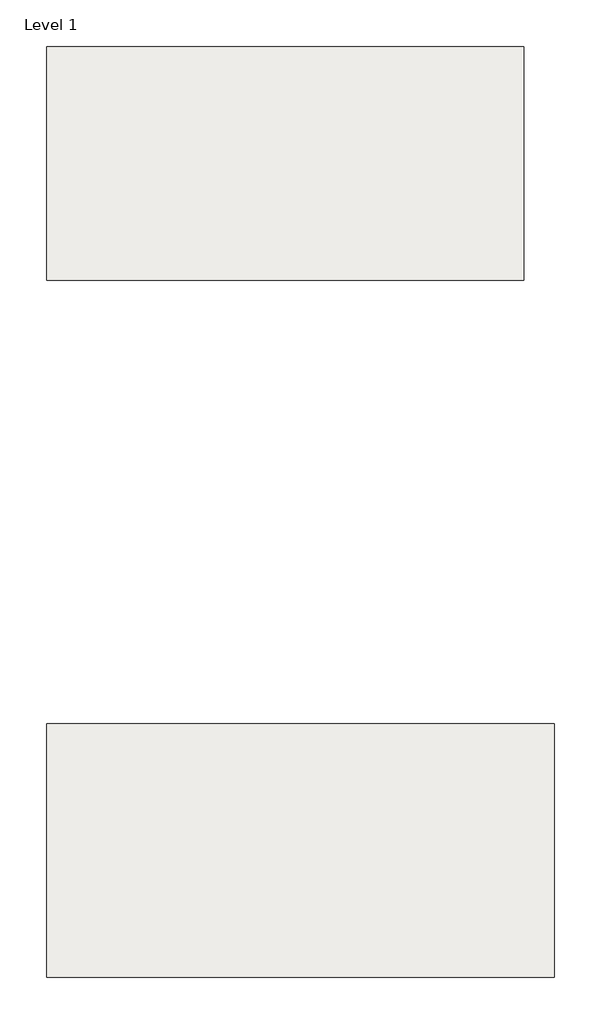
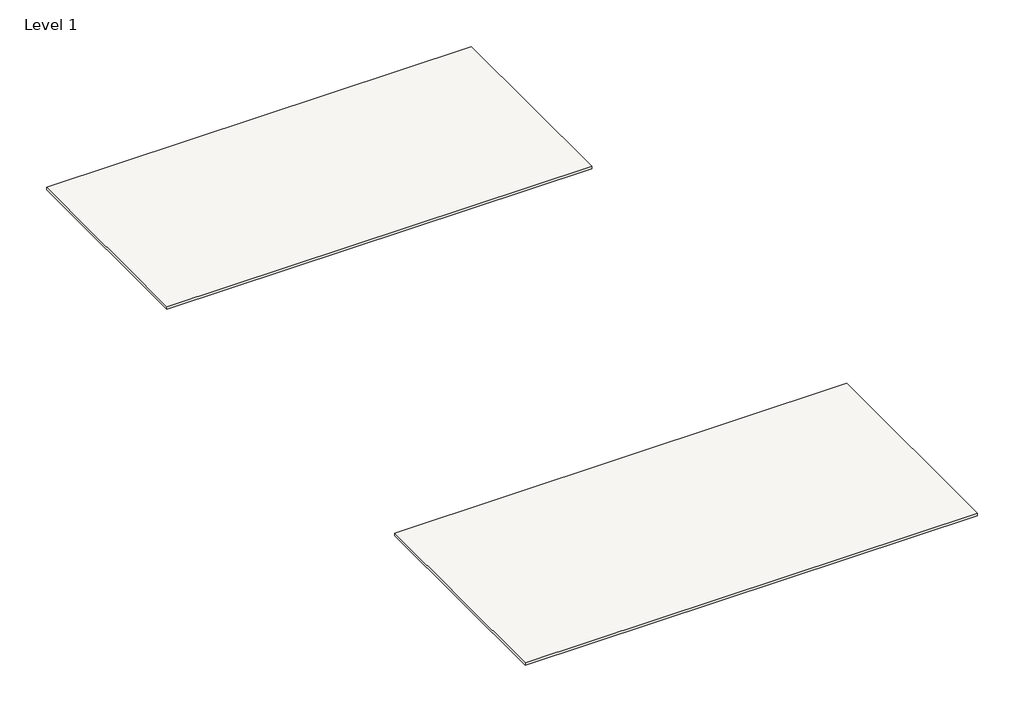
# One storey: 2 slabs.
"""IFC4 building model written with IfcOpenShell, lengths in millimetres."""

import ifcopenshell
import ifcopenshell.guid

model = None  # the IFC model being written
_history = None  # IfcOwnerHistory: only IFC2X3 demands one
_inside = {}  # id of a spatial element -> (the spatial element, [elements in it])
_under = {}  # id of a project, library or spatial element -> (it, [spatial elements below it])
_declared = {}  # id of a project -> (the project, [libraries it declares])
_typed = {}  # id of a type object -> (the type object, [elements of that type])
_made_of = {}  # id of a material, layer set ... -> (it, [elements and type objects made of it])


def new_model(schema):
    """Start an empty IFC model of exactly this schema.

    Asked for "IFC4X3", IfcOpenShell would pick the latest addendum, in which some entities
    have other attributes; the version numbers below select the first issue.
    IFC2X3 requires an IfcOwnerHistory on every rooted entity: one is made here for all.
    """
    global model, _history
    if schema == "IFC4X3":
        model = ifcopenshell.file(schema_version=(4, 3, 0, 0))
    else:
        model = ifcopenshell.file(schema=schema)
    _inside.clear()
    _under.clear()
    _declared.clear()
    _typed.clear()
    _made_of.clear()
    _history = None
    if model.schema == "IFC2X3":
        org = make("IfcOrganization", Name="unknown")
        user = make(
            "IfcPersonAndOrganization",
            ThePerson=make("IfcPerson", FamilyName="unknown"),
            TheOrganization=org,
        )
        app = make(
            "IfcApplication",
            ApplicationDeveloper=org,
            Version="unknown",
            ApplicationFullName="unknown",
            ApplicationIdentifier="unknown",
        )
        _history = make(
            "IfcOwnerHistory",
            OwningUser=user,
            OwningApplication=app,
            ChangeAction="ADDED",
            CreationDate=0,
        )
    return model


def make(cls, **values):
    """One entity of the class cls with the attributes given. An attribute that is None is left unset."""
    return model.create_entity(
        cls, **{name: value for name, value in values.items() if value is not None}
    )


def rooted(cls, **values):
    """An entity with a GlobalId (a new one), such as an element, a storey or a relation."""
    return make(cls, GlobalId=ifcopenshell.guid.new(), OwnerHistory=_history, **values)


def si_unit(unit_type, name, prefix=None):
    """IfcSIUnit, for example si_unit("LENGTHUNIT", "METRE", prefix="MILLI")."""
    return make("IfcSIUnit", UnitType=unit_type, Prefix=prefix, Name=name)


def assignment(units):
    """IfcUnitAssignment: the units of a project."""
    return None if units is None else make("IfcUnitAssignment", Units=units)


def point(xyz):
    """IfcCartesianPoint."""
    return None if xyz is None else make("IfcCartesianPoint", Coordinates=xyz)


def direction(xyz):
    """IfcDirection."""
    return None if xyz is None else make("IfcDirection", DirectionRatios=xyz)


def frame(location, z_axis=None, x_axis=None):
    """IfcAxis2Placement3D, a coordinate frame: its origin and axes. An axis left out is left unset."""
    return make(
        "IfcAxis2Placement3D",
        Location=point(location),
        Axis=direction(z_axis),
        RefDirection=direction(x_axis),
    )


def origin():
    """The frame at (0, 0, 0) with its axes left unset."""
    return frame((0.0, 0.0, 0.0))


def place(relative_to, where):
    """IfcLocalPlacement: puts the frame where relative to a parent placement (None: the world)."""
    return make(
        "IfcLocalPlacement", PlacementRelTo=relative_to, RelativePlacement=where
    )


def context(
    kind, dimensions, precision=None, world=None, true_north=None, identifier=None
):
    """IfcGeometricRepresentationContext, for example the 3D "Model" context."""
    return make(
        "IfcGeometricRepresentationContext",
        ContextIdentifier=identifier,
        ContextType=kind,
        CoordinateSpaceDimension=dimensions,
        Precision=precision,
        WorldCoordinateSystem=world,
        TrueNorth=true_north,
    )


def project(units=None, contexts=None):
    """IfcProject with its units and contexts."""
    return rooted(
        "IfcProject",
        Name="project",
        RepresentationContexts=contexts,
        UnitsInContext=assignment(units),
    )


def spatial(cls, under=None, at=None, **own):
    """A site, building, storey or space (cls), placed at a placement, below another one or the project."""
    s = rooted(cls, ObjectPlacement=at, **own)
    if under is not None:
        _under.setdefault(under.id(), (under, []))[1].append(s)
    return s


def polyline(points):
    """IfcPolyline through the points."""
    return make("IfcPolyline", Points=[point(p) for p in points])


def outline(outer, holes=None, kind="AREA"):
    """IfcArbitraryClosedProfileDef: a profile drawn as a closed curve; with holes, ...WithVoids."""
    if holes is None:
        return make("IfcArbitraryClosedProfileDef", ProfileType=kind, OuterCurve=outer)
    return make(
        "IfcArbitraryProfileDefWithVoids",
        ProfileType=kind,
        OuterCurve=outer,
        InnerCurves=holes,
    )


def extrude(swept, where, along, depth):
    """IfcExtrudedAreaSolid: the profile swept, set in the frame where, extruded along a direction by depth."""
    return make(
        "IfcExtrudedAreaSolid",
        SweptArea=swept,
        Position=where,
        ExtrudedDirection=direction(along),
        Depth=depth,
    )


def shape(context_of_items, identifier, shape_type, items):
    """IfcShapeRepresentation: the items that make up one representation, for example the "Body"."""
    return make(
        "IfcShapeRepresentation",
        ContextOfItems=context_of_items,
        RepresentationIdentifier=identifier,
        RepresentationType=shape_type,
        Items=items,
    )


def made_of(thing, what):
    """Note that an element or type object is made of a material, layer set ...; save() writes the relation."""
    if what is not None:
        _made_of.setdefault(what.id(), (what, []))[1].append(thing)
    return thing


def element(
    cls,
    number,
    at=None,
    inside=None,
    cuts=None,
    type_object=None,
    material=None,
    context=None,
    identifier="Body",
    shape_type=None,
    held_by="IfcProductDefinitionShape",
    body=None,
    shapes=None,
    **own,
):
    """One element of the class cls, such as IfcWall. Its Tag is "e" and its number.

    at: its placement. inside: the storey or other place that contains it. cuts: it is an
    opening in that element (IfcRelVoidsElement). A single representation is given by context,
    identifier, shape_type and body (its items); several are given by shapes. held_by: the class
    of the entity that holds the representations. save() writes the other relations.
    """
    e = rooted(cls, Tag="e%d" % number, ObjectPlacement=at, **own)
    if body is not None:
        shapes = [shape(context, identifier, shape_type, body)]
    if shapes is not None:
        e.Representation = make(held_by, Representations=shapes)
    if inside is not None:
        _inside.setdefault(inside.id(), (inside, []))[1].append(e)
    if cuts is not None:
        rooted(
            "IfcRelVoidsElement", RelatingBuildingElement=cuts, RelatedOpeningElement=e
        )
    if type_object is not None:
        _typed.setdefault(type_object.id(), (type_object, []))[1].append(e)
    return made_of(e, material)


def aggregate(whole, parts):
    """IfcRelAggregates: a whole, such as a stair, and the parts it consists of."""
    return rooted("IfcRelAggregates", RelatingObject=whole, RelatedObjects=parts)


def save(model, path):
    """Write the relations noted so far, then the file.

    IfcRelAggregates (storeys below a building ...), IfcRelContainedInSpatialStructure (elements
    in a storey), IfcRelDefinesByType, IfcRelAssociatesMaterial and IfcRelDeclares: one each for
    every whole, place, type object, material and project.
    """
    for whole, parts in _under.values():
        aggregate(whole, parts)
    for where, things in _inside.values():
        rooted(
            "IfcRelContainedInSpatialStructure",
            RelatedElements=things,
            RelatingStructure=where,
        )
    for kind, things in _typed.values():
        rooted("IfcRelDefinesByType", RelatedObjects=things, RelatingType=kind)
    for what, things in _made_of.values():
        rooted("IfcRelAssociatesMaterial", RelatedObjects=things, RelatingMaterial=what)
    for by, libraries in _declared.values():
        rooted("IfcRelDeclares", RelatingContext=by, RelatedDefinitions=libraries)
    model.write(path)


model = new_model("IFC4")

# Units and contexts
model_context = context("Model", 3, world=origin())
ifc_project = project(units=[si_unit("LENGTHUNIT", "METRE", prefix="MILLI")], contexts=[model_context])

# Site, building, storey
site = spatial("IfcSite", under=ifc_project)
building = spatial("IfcBuilding", under=site)
storey = spatial("IfcBuildingStorey", under=building, Name="Level 1", Elevation=0.0)

# Slabs
placement = place(None, origin())
element("IfcSlab", 1, ObjectType="BELENCO_Parma_3555_152cm*310cm", at=placement, inside=storey, context=model_context, shape_type="SweptSolid", body=[
    extrude(outline(polyline([(48.9549324, 6588.4610085), (48.9549324, 5068.4610085), (-3051.0450676, 5068.4610085), (-3051.0450676, 6588.4610085), (48.9549324, 6588.4610085)])), frame((0.0, 0.0, -20.0), z_axis=(0.0, 0.0, 1.0), x_axis=(1.0, 0.0, 0.0)), (0.0, 0.0, 1.0), 20.0),
])
element("IfcSlab", 2, ObjectType="BELENCO_Parma_3555_165cm*330cm", at=placement, inside=storey, context=model_context, shape_type="SweptSolid", body=[
    extrude(outline(polyline([(248.9549324, 2188.7754875), (248.9549324, 538.7754875), (-3051.0450676, 538.7754875), (-3051.0450676, 2188.7754875), (248.9549324, 2188.7754875)])), frame((0.0, 0.0, -20.0), z_axis=(0.0, 0.0, 1.0), x_axis=(1.0, 0.0, 0.0)), (0.0, 0.0, 1.0), 20.0),
])

save(model, "model.ifc")
